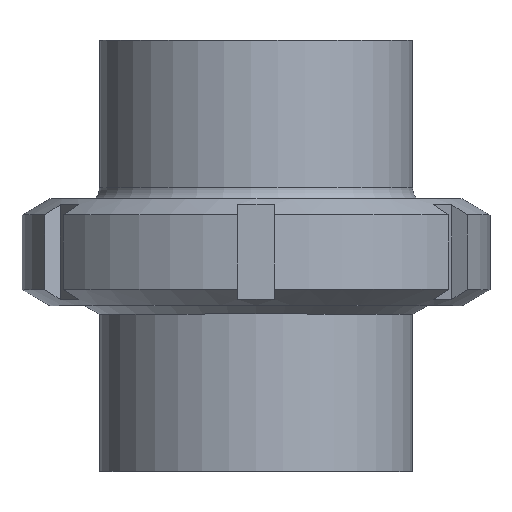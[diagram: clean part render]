
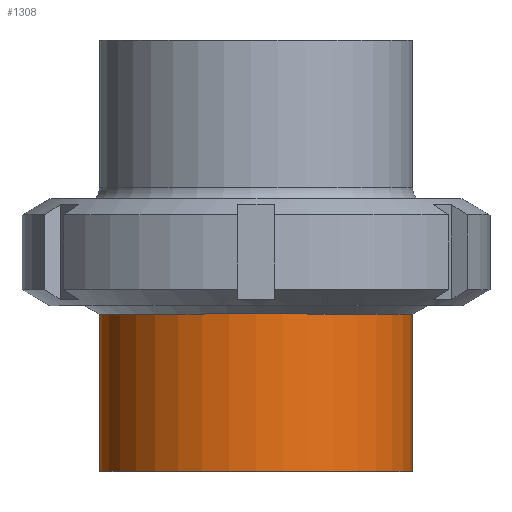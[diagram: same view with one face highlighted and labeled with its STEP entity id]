
A CAD part, top view. The second image highlights one B-rep face of the part: STEP entity #1308.
In plain terms, the highlighted cylindrical face has radius 42.5 mm (diameter 85 mm), a full revolution.
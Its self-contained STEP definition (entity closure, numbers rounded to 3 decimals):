
#79=CYLINDRICAL_SURFACE('',#1530,42.5);
#98=LINE('',#2201,#142);
#142=VECTOR('',#1788,42.5);
#246=FACE_OUTER_BOUND('',#317,.T.);
#317=EDGE_LOOP('',(#922,#923,#924,#925,#926,#927));
#416=CIRCLE('',#1528,42.5);
#417=CIRCLE('',#1529,42.5);
#418=CIRCLE('',#1531,42.5);
#419=CIRCLE('',#1532,42.5);
#529=VERTEX_POINT('',#2191);
#530=VERTEX_POINT('',#2192);
#531=VERTEX_POINT('',#2197);
#532=VERTEX_POINT('',#2198);
#682=EDGE_CURVE('',#529,#530,#416,.T.);
#683=EDGE_CURVE('',#530,#529,#417,.T.);
#685=EDGE_CURVE('',#531,#532,#418,.T.);
#686=EDGE_CURVE('',#532,#531,#419,.T.);
#687=EDGE_CURVE('',#532,#530,#98,.T.);
#922=ORIENTED_EDGE('',*,*,#685,.F.);
#923=ORIENTED_EDGE('',*,*,#686,.F.);
#924=ORIENTED_EDGE('',*,*,#687,.T.);
#925=ORIENTED_EDGE('',*,*,#683,.T.);
#926=ORIENTED_EDGE('',*,*,#682,.T.);
#927=ORIENTED_EDGE('',*,*,#687,.F.);
#1308=ADVANCED_FACE('',(#246),#79,.T.);
#1528=AXIS2_PLACEMENT_3D('',#2193,#1777,#1778);
#1529=AXIS2_PLACEMENT_3D('',#2194,#1779,#1780);
#1530=AXIS2_PLACEMENT_3D('',#2196,#1782,#1783);
#1531=AXIS2_PLACEMENT_3D('',#2199,#1784,#1785);
#1532=AXIS2_PLACEMENT_3D('',#2200,#1786,#1787);
#1777=DIRECTION('center_axis',(0.,-1.,0.));
#1778=DIRECTION('ref_axis',(1.,0.,0.));
#1779=DIRECTION('center_axis',(0.,-1.,0.));
#1780=DIRECTION('ref_axis',(1.,0.,0.));
#1782=DIRECTION('center_axis',(0.,-1.,0.));
#1783=DIRECTION('ref_axis',(1.,0.,0.));
#1784=DIRECTION('center_axis',(0.,-1.,0.));
#1785=DIRECTION('ref_axis',(1.,0.,0.));
#1786=DIRECTION('center_axis',(0.,-1.,0.));
#1787=DIRECTION('ref_axis',(1.,0.,0.));
#1788=DIRECTION('',(0.,1.,0.));
#2191=CARTESIAN_POINT('',(42.5,42.691,0.));
#2192=CARTESIAN_POINT('',(-42.5,42.691,0.));
#2193=CARTESIAN_POINT('Origin',(0.,42.691,0.));
#2194=CARTESIAN_POINT('Origin',(0.,42.691,0.));
#2196=CARTESIAN_POINT('Origin',(0.,21.345,0.));
#2197=CARTESIAN_POINT('',(42.5,0.,0.));
#2198=CARTESIAN_POINT('',(-42.5,0.,0.));
#2199=CARTESIAN_POINT('Origin',(0.,0.,0.));
#2200=CARTESIAN_POINT('Origin',(0.,0.,0.));
#2201=CARTESIAN_POINT('',(-42.5,21.345,0.));
